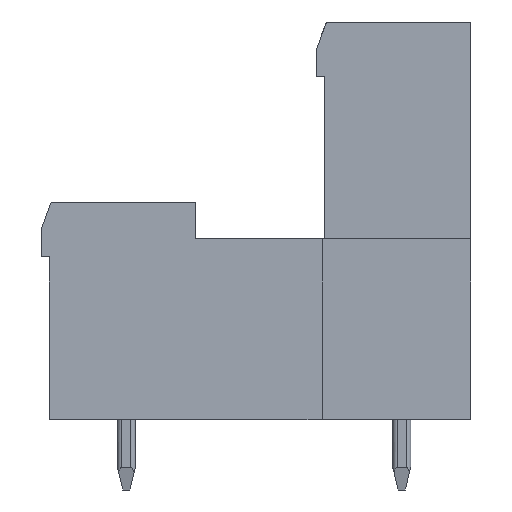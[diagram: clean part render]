
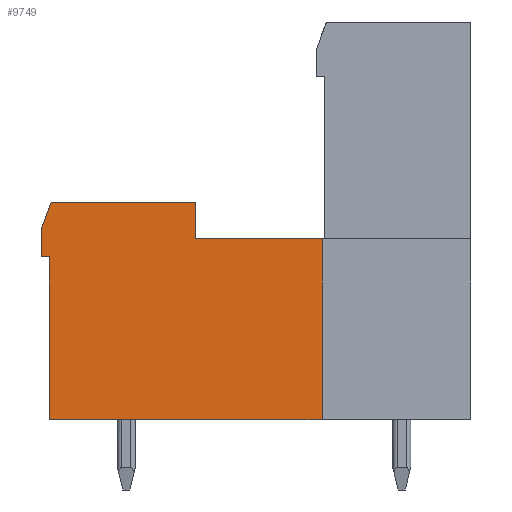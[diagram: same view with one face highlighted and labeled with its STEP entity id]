
A CAD part, left-side view. The second image highlights one B-rep face of the part: STEP entity #9749.
In plain terms, the highlighted planar face has unit normal (-1, 0, 0).
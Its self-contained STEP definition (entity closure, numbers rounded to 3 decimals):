
#1362=DIRECTION('',(0.,-1.,0.));
#1363=VECTOR('',#1362,15.1);
#1364=CARTESIAN_POINT('',(4.08,23.34,-22.));
#1365=LINE('',#1364,#1363);
#1482=DIRECTION('',(0.,0.,1.));
#1483=VECTOR('',#1482,2.);
#1484=CARTESIAN_POINT('',(4.08,15.24,-12.));
#1485=LINE('',#1484,#1483);
#2574=DIRECTION('',(0.,-1.,0.));
#2575=VECTOR('',#2574,7.);
#2576=CARTESIAN_POINT('',(4.08,15.24,-12.));
#2577=LINE('',#2576,#2575);
#2578=DIRECTION('',(0.,0.,-1.));
#2579=VECTOR('',#2578,10.);
#2580=CARTESIAN_POINT('',(4.08,8.24,-12.));
#2581=LINE('',#2580,#2579);
#2582=DIRECTION('',(0.,-0.344,0.939));
#2583=VECTOR('',#2582,1.598);
#2584=CARTESIAN_POINT('',(4.08,23.79,-11.5));
#2585=LINE('',#2584,#2583);
#2602=DIRECTION('',(0.,0.,-1.));
#2603=VECTOR('',#2602,9.);
#2604=CARTESIAN_POINT('',(4.08,23.34,-13.));
#2605=LINE('',#2604,#2603);
#2610=DIRECTION('',(0.,-1.,0.));
#2611=VECTOR('',#2610,0.45);
#2612=CARTESIAN_POINT('',(4.08,23.79,-13.));
#2613=LINE('',#2612,#2611);
#2614=DIRECTION('',(0.,0.,-1.));
#2615=VECTOR('',#2614,1.5);
#2616=CARTESIAN_POINT('',(4.08,23.79,-11.5));
#2617=LINE('',#2616,#2615);
#2646=DIRECTION('',(0.,1.,0.));
#2647=VECTOR('',#2646,8.);
#2648=CARTESIAN_POINT('',(4.08,15.24,-10.));
#2649=LINE('',#2648,#2647);
#5041=CARTESIAN_POINT('',(4.08,8.24,-12.));
#5042=VERTEX_POINT('',#5041);
#5043=CARTESIAN_POINT('',(4.08,15.24,-12.));
#5044=VERTEX_POINT('',#5043);
#5370=CARTESIAN_POINT('',(4.08,23.34,-22.));
#5371=VERTEX_POINT('',#5370);
#5372=CARTESIAN_POINT('',(4.08,8.24,-22.));
#5373=VERTEX_POINT('',#5372);
#5452=CARTESIAN_POINT('',(4.08,15.24,-10.));
#5453=VERTEX_POINT('',#5452);
#5592=CARTESIAN_POINT('',(4.08,23.24,-10.));
#5593=VERTEX_POINT('',#5592);
#5622=CARTESIAN_POINT('',(4.08,23.34,-13.));
#5623=VERTEX_POINT('',#5622);
#5624=CARTESIAN_POINT('',(4.08,23.79,-13.));
#5625=VERTEX_POINT('',#5624);
#5626=CARTESIAN_POINT('',(4.08,23.79,-11.5));
#5627=VERTEX_POINT('',#5626);
#9727=CARTESIAN_POINT('',(4.08,10.11,0.));
#9728=DIRECTION('',(1.,0.,0.));
#9729=DIRECTION('',(0.,1.,0.));
#9730=AXIS2_PLACEMENT_3D('',#9727,#9728,#9729);
#9731=PLANE('',#9730);
#9732=ORIENTED_EDGE('',*,*,#8277,.F.);
#9733=ORIENTED_EDGE('',*,*,#6497,.T.);
#9735=ORIENTED_EDGE('',*,*,#9734,.T.);
#9736=ORIENTED_EDGE('',*,*,#8145,.F.);
#9738=ORIENTED_EDGE('',*,*,#9737,.F.);
#9740=ORIENTED_EDGE('',*,*,#9739,.F.);
#9742=ORIENTED_EDGE('',*,*,#9741,.F.);
#9744=ORIENTED_EDGE('',*,*,#9743,.T.);
#9746=ORIENTED_EDGE('',*,*,#9745,.F.);
#9747=EDGE_LOOP('',(#9732,#9733,#9735,#9736,#9738,#9740,#9742,#9744,#9746));
#9748=FACE_OUTER_BOUND('',#9747,.F.);
#9749=ADVANCED_FACE('',(#9748),#9731,.F.);
#6497=EDGE_CURVE('',#5044,#5042,#2577,.T.);
#8145=EDGE_CURVE('',#5371,#5373,#1365,.T.);
#8277=EDGE_CURVE('',#5044,#5453,#1485,.T.);
#9734=EDGE_CURVE('',#5042,#5373,#2581,.T.);
#9737=EDGE_CURVE('',#5623,#5371,#2605,.T.);
#9739=EDGE_CURVE('',#5625,#5623,#2613,.T.);
#9741=EDGE_CURVE('',#5627,#5625,#2617,.T.);
#9743=EDGE_CURVE('',#5627,#5593,#2585,.T.);
#9745=EDGE_CURVE('',#5453,#5593,#2649,.T.);
